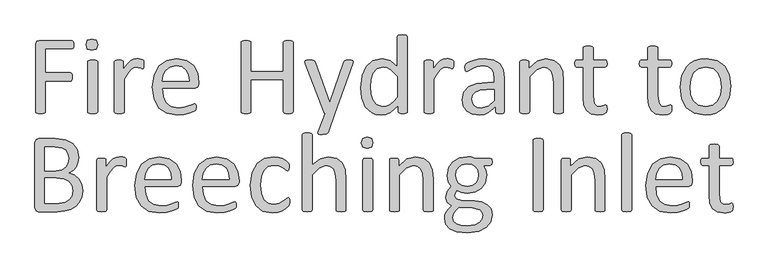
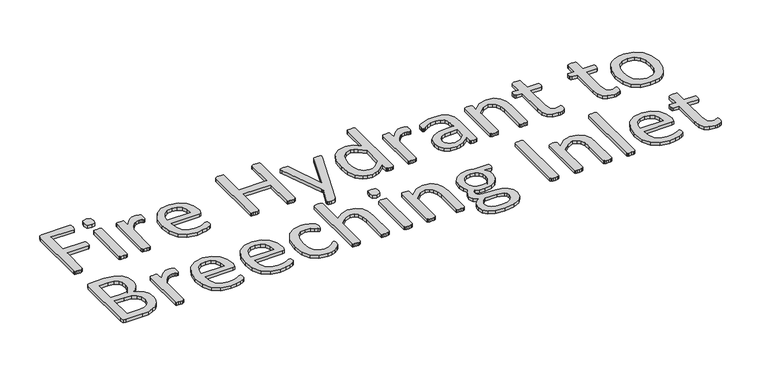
"""IFC4 building model written with IfcOpenShell, lengths in millimetres: proxy geometry, Marker-Fire Hydrant to Breeching Inlet : Fire Hydrant to Breeching Inlet."""

import ifcopenshell
import ifcopenshell.guid

model = None  # the IFC model being written
_history = None  # IfcOwnerHistory: only IFC2X3 demands one
_inside = {}  # id of a spatial element -> (the spatial element, [elements in it])
_under = {}  # id of a project, library or spatial element -> (it, [spatial elements below it])
_declared = {}  # id of a project -> (the project, [libraries it declares])
_typed = {}  # id of a type object -> (the type object, [elements of that type])
_made_of = {}  # id of a material, layer set ... -> (it, [elements and type objects made of it])


def new_model(schema):
    """Start an empty IFC model of exactly this schema.

    Asked for "IFC4X3", IfcOpenShell would pick the latest addendum, in which some entities
    have other attributes; the version numbers below select the first issue.
    IFC2X3 requires an IfcOwnerHistory on every rooted entity: one is made here for all.
    """
    global model, _history
    if schema == "IFC4X3":
        model = ifcopenshell.file(schema_version=(4, 3, 0, 0))
    else:
        model = ifcopenshell.file(schema=schema)
    _inside.clear()
    _under.clear()
    _declared.clear()
    _typed.clear()
    _made_of.clear()
    _history = None
    if model.schema == "IFC2X3":
        org = make("IfcOrganization", Name="unknown")
        user = make(
            "IfcPersonAndOrganization",
            ThePerson=make("IfcPerson", FamilyName="unknown"),
            TheOrganization=org,
        )
        app = make(
            "IfcApplication",
            ApplicationDeveloper=org,
            Version="unknown",
            ApplicationFullName="unknown",
            ApplicationIdentifier="unknown",
        )
        _history = make(
            "IfcOwnerHistory",
            OwningUser=user,
            OwningApplication=app,
            ChangeAction="ADDED",
            CreationDate=0,
        )
    return model


def make(cls, **values):
    """One entity of the class cls with the attributes given. An attribute that is None is left unset."""
    return model.create_entity(
        cls, **{name: value for name, value in values.items() if value is not None}
    )


def rooted(cls, **values):
    """An entity with a GlobalId (a new one), such as an element, a storey or a relation."""
    return make(cls, GlobalId=ifcopenshell.guid.new(), OwnerHistory=_history, **values)


def si_unit(unit_type, name, prefix=None):
    """IfcSIUnit, for example si_unit("LENGTHUNIT", "METRE", prefix="MILLI")."""
    return make("IfcSIUnit", UnitType=unit_type, Prefix=prefix, Name=name)


def assignment(units):
    """IfcUnitAssignment: the units of a project."""
    return None if units is None else make("IfcUnitAssignment", Units=units)


def point(xyz):
    """IfcCartesianPoint."""
    return None if xyz is None else make("IfcCartesianPoint", Coordinates=xyz)


def direction(xyz):
    """IfcDirection."""
    return None if xyz is None else make("IfcDirection", DirectionRatios=xyz)


def frame(location, z_axis=None, x_axis=None):
    """IfcAxis2Placement3D, a coordinate frame: its origin and axes. An axis left out is left unset."""
    return make(
        "IfcAxis2Placement3D",
        Location=point(location),
        Axis=direction(z_axis),
        RefDirection=direction(x_axis),
    )


def origin():
    """The frame at (0, 0, 0) with its axes left unset."""
    return frame((0.0, 0.0, 0.0))


def origin_with_axes():
    """The frame at (0, 0, 0) with the z axis (0, 0, 1) and the x axis (1, 0, 0) written out."""
    return frame((0.0, 0.0, 0.0), z_axis=(0.0, 0.0, 1.0), x_axis=(1.0, 0.0, 0.0))


def place(relative_to, where):
    """IfcLocalPlacement: puts the frame where relative to a parent placement (None: the world)."""
    return make(
        "IfcLocalPlacement", PlacementRelTo=relative_to, RelativePlacement=where
    )


def context(
    kind, dimensions, precision=None, world=None, true_north=None, identifier=None
):
    """IfcGeometricRepresentationContext, for example the 3D "Model" context."""
    return make(
        "IfcGeometricRepresentationContext",
        ContextIdentifier=identifier,
        ContextType=kind,
        CoordinateSpaceDimension=dimensions,
        Precision=precision,
        WorldCoordinateSystem=world,
        TrueNorth=true_north,
    )


def project(units=None, contexts=None):
    """IfcProject with its units and contexts."""
    return rooted(
        "IfcProject",
        Name="project",
        RepresentationContexts=contexts,
        UnitsInContext=assignment(units),
    )


def spatial(cls, under=None, at=None, **own):
    """A site, building, storey or space (cls), placed at a placement, below another one or the project."""
    s = rooted(cls, ObjectPlacement=at, **own)
    if under is not None:
        _under.setdefault(under.id(), (under, []))[1].append(s)
    return s


def polyline(points):
    """IfcPolyline through the points."""
    return make("IfcPolyline", Points=[point(p) for p in points])


def outline(outer, holes=None, kind="AREA"):
    """IfcArbitraryClosedProfileDef: a profile drawn as a closed curve; with holes, ...WithVoids."""
    if holes is None:
        return make("IfcArbitraryClosedProfileDef", ProfileType=kind, OuterCurve=outer)
    return make(
        "IfcArbitraryProfileDefWithVoids",
        ProfileType=kind,
        OuterCurve=outer,
        InnerCurves=holes,
    )


def extrude(swept, where, along, depth):
    """IfcExtrudedAreaSolid: the profile swept, set in the frame where, extruded along a direction by depth."""
    return make(
        "IfcExtrudedAreaSolid",
        SweptArea=swept,
        Position=where,
        ExtrudedDirection=direction(along),
        Depth=depth,
    )


def shape(context_of_items, identifier, shape_type, items):
    """IfcShapeRepresentation: the items that make up one representation, for example the "Body"."""
    return make(
        "IfcShapeRepresentation",
        ContextOfItems=context_of_items,
        RepresentationIdentifier=identifier,
        RepresentationType=shape_type,
        Items=items,
    )


def source(mapping_origin, context_of_items, identifier, shape_type, items):
    """IfcRepresentationMap: a shape defined once, which mapped items show again and again."""
    return make(
        "IfcRepresentationMap",
        MappingOrigin=mapping_origin,
        MappedRepresentation=shape(context_of_items, identifier, shape_type, items),
    )


def transform(
    local_origin,
    x_axis=None,
    y_axis=None,
    z_axis=None,
    scale=None,
    scale2=None,
    scale3=None,
    uniform=True,
):
    """IfcCartesianTransformationOperator3D, or its non-uniform kind. x_axis, y_axis, z_axis: its Axis1, 2, 3."""
    if uniform:
        return make(
            "IfcCartesianTransformationOperator3D",
            Axis1=direction(x_axis),
            Axis2=direction(y_axis),
            LocalOrigin=point(local_origin),
            Scale=scale,
            Axis3=direction(z_axis),
        )
    return make(
        "IfcCartesianTransformationOperator3DnonUniform",
        Axis1=direction(x_axis),
        Axis2=direction(y_axis),
        LocalOrigin=point(local_origin),
        Scale=scale,
        Axis3=direction(z_axis),
        Scale2=scale2,
        Scale3=scale3,
    )


def mapped(mapping_source, mapping_target):
    """IfcMappedItem: shows the shape of a source again, moved by a transform."""
    return make(
        "IfcMappedItem", MappingSource=mapping_source, MappingTarget=mapping_target
    )


def made_of(thing, what):
    """Note that an element or type object is made of a material, layer set ...; save() writes the relation."""
    if what is not None:
        _made_of.setdefault(what.id(), (what, []))[1].append(thing)
    return thing


def element(
    cls,
    number,
    at=None,
    inside=None,
    cuts=None,
    type_object=None,
    material=None,
    context=None,
    identifier="Body",
    shape_type=None,
    held_by="IfcProductDefinitionShape",
    body=None,
    shapes=None,
    **own,
):
    """One element of the class cls, such as IfcWall. Its Tag is "e" and its number.

    at: its placement. inside: the storey or other place that contains it. cuts: it is an
    opening in that element (IfcRelVoidsElement). A single representation is given by context,
    identifier, shape_type and body (its items); several are given by shapes. held_by: the class
    of the entity that holds the representations. save() writes the other relations.
    """
    e = rooted(cls, Tag="e%d" % number, ObjectPlacement=at, **own)
    if body is not None:
        shapes = [shape(context, identifier, shape_type, body)]
    if shapes is not None:
        e.Representation = make(held_by, Representations=shapes)
    if inside is not None:
        _inside.setdefault(inside.id(), (inside, []))[1].append(e)
    if cuts is not None:
        rooted(
            "IfcRelVoidsElement", RelatingBuildingElement=cuts, RelatedOpeningElement=e
        )
    if type_object is not None:
        _typed.setdefault(type_object.id(), (type_object, []))[1].append(e)
    return made_of(e, material)


def aggregate(whole, parts):
    """IfcRelAggregates: a whole, such as a stair, and the parts it consists of."""
    return rooted("IfcRelAggregates", RelatingObject=whole, RelatedObjects=parts)


def save(model, path):
    """Write the relations noted so far, then the file.

    IfcRelAggregates (storeys below a building ...), IfcRelContainedInSpatialStructure (elements
    in a storey), IfcRelDefinesByType, IfcRelAssociatesMaterial and IfcRelDeclares: one each for
    every whole, place, type object, material and project.
    """
    for whole, parts in _under.values():
        aggregate(whole, parts)
    for where, things in _inside.values():
        rooted(
            "IfcRelContainedInSpatialStructure",
            RelatedElements=things,
            RelatingStructure=where,
        )
    for kind, things in _typed.values():
        rooted("IfcRelDefinesByType", RelatedObjects=things, RelatingType=kind)
    for what, things in _made_of.values():
        rooted("IfcRelAssociatesMaterial", RelatedObjects=things, RelatingMaterial=what)
    for by, libraries in _declared.values():
        rooted("IfcRelDeclares", RelatingContext=by, RelatedDefinitions=libraries)
    model.write(path)


def generic_models_4d7ac0fc(model_context):
    return source(origin(), model_context, "Body", "SweptSolid", [
        extrude(outline(polyline([(3558.4853889, 223.7082635), (3558.183814, 218.4910177), (3557.1283018, 214.9324338), (3555.3791674, 212.9420395), (3553.2983005, 212.3087322), (3481.2822135, 212.3087322), (3481.2822135, 146.6860331), (3549.3175118, 146.6860331), (3551.3983786, 146.1130408), (3553.1475131, 144.2432764), (3554.2030252, 140.775165), (3554.5046001, 135.1658718), (3554.2030252, 129.9184685), (3553.1475131, 126.3598846), (3551.3983786, 124.2488603), (3549.3175118, 123.5250805), (3481.2822135, 123.5250805), (3481.2822135, 39.6872573), (3480.6489062, 37.6063905), (3478.4474094, 36.0683585), (3474.3761482, 35.1334763), (3467.7716578, 34.7414289), (3461.3179549, 35.1334763), (3457.0959063, 36.0683585), (3454.8944095, 37.6063905), (3454.2611022, 39.6872573), (3454.2611022, 224.6733032), (3457.3974812, 233.087243), (3464.092444, 235.4696848), (3553.2983005, 235.4696848), (3555.3188524, 234.8363775), (3557.0981443, 232.7856681), (3558.183814, 229.0461393), (3558.4853889, 223.7082635)])), origin_with_axes(), (0.0, 0.0, 1.0), 10.0),
        extrude(outline(polyline([(3624.1080879, 224.0701534), (3620.790764, 211.7357399), (3608.4865079, 208.4485734), (3596.4838267, 211.6452674), (3593.2268178, 223.7082635), (3596.5441417, 236.0426771), (3608.8483978, 239.3298435), (3620.8510789, 236.1331496), (3624.1080879, 224.0701534)])), origin_with_axes(), (0.0, 0.0, 1.0), 10.0),
        extrude(outline(polyline([(3624.1080879, 39.4459974), (3623.4446231, 37.3952881), (3621.3034413, 35.9477285), (3617.2321801, 35.0430038), (3610.5372172, 34.7414289), (3603.9628843, 35.0430038), (3599.8011507, 35.9477285), (3597.6599688, 37.3952881), (3597.0869765, 39.4459974), (3597.0869765, 176.7228935), (3597.6599688, 178.6831304), (3599.8011507, 180.2211624), (3603.9628843, 181.1258871), (3610.5372172, 181.427462), (3617.2321801, 181.1258871), (3621.3034413, 180.2211624), (3623.4446231, 178.6831304), (3624.1080879, 176.7228935), (3624.1080879, 39.4459974)])), origin_with_axes(), (0.0, 0.0, 1.0), 10.0),
        extrude(outline(polyline([(3751.4933272, 169.8469857), (3751.3425397, 164.3583225), (3750.7393899, 160.7997386), (3749.6235628, 158.7791868), (3747.7537984, 158.0855645), (3744.8285218, 158.7791868), (3740.9382056, 160.1664313), (3736.0828496, 161.4933609), (3730.262454, 162.1266682), (3722.9040263, 160.4680062), (3715.3344963, 155.039658), (3707.0411864, 145.0273712), (3697.4511045, 129.7375235), (3697.4511045, 39.4459974), (3696.7876397, 37.3952881), (3694.6464579, 35.9477285), (3690.5751967, 35.0430038), (3683.8802338, 34.7414289), (3677.3059009, 35.0430038), (3673.1441672, 35.9477285), (3671.0029854, 37.3952881), (3670.4299931, 39.4459974), (3670.4299931, 176.7228935), (3670.9125129, 178.7736029), (3672.8727498, 180.2814774), (3676.6424361, 181.1862021), (3682.7342492, 181.427462), (3688.7054323, 181.1862021), (3692.3846461, 180.2814774), (3694.284568, 178.7736029), (3694.8575603, 176.7228935), (3694.8575603, 156.6983199), (3705.292052, 170.9929704), (3714.5504015, 179.7084851), (3723.1754437, 184.0813212), (3731.8306435, 185.2876208), (3736.2336371, 185.0765184), (3741.4207254, 184.2622661), (3746.3062389, 182.9051791), (3749.3823029, 181.427462), (3750.5886025, 180.0402175), (3751.1314373, 178.3212405), (3751.4330122, 175.275334), (3751.4933272, 169.8469857)])), origin_with_axes(), (0.0, 0.0, 1.0), 10.0),
        extrude(outline(polyline([(3902.0395191, 115.2619282), (3899.0539276, 106.7575159), (3892.2081772, 104.2242867), (3801.6753912, 104.2242867), (3803.9372029, 81.9077438), (3811.446418, 64.8989193), (3825.1379187, 53.9819078), (3845.7656421, 50.182064), (3862.8950966, 51.9613559), (3875.9231324, 55.9723021), (3884.9402221, 59.9832483), (3890.2780979, 61.7625403), (3892.1478623, 61.2498629), (3893.4446343, 59.7419884), (3894.1080991, 56.9373418), (3894.3192016, 52.5343482), (3894.1684141, 49.3074967), (3893.7763667, 46.86474), (3893.0224295, 44.9045032), (3891.6653424, 43.2458412), (3886.7496715, 40.3205646), (3876.1643924, 36.1588309), (3861.0856472, 32.5097746), (3842.810208, 30.8812701), (3813.3463399, 35.7064686), (3792.0853092, 50.061434), (3779.0572734, 73.9763239), (3774.6542798, 107.3606657), (3779.2683758, 139.9307553), (3792.5678291, 164.4186375), (3813.5574424, 179.88943), (3841.1213886, 185.2876208), (3868.8662797, 180.070375), (3887.7147112, 166.0169845), (3898.5714077, 145.2987886), (3902.0395191, 119.9061817), (3902.0395191, 115.2619282)]), holes=[polyline([(3875.0184077, 123.5250805), (3873.0657102, 141.2350668), (3866.363208, 154.6777681), (3855.0767672, 163.1595622), (3839.3722541, 165.986827), (3823.2983118, 162.4885581), (3811.7479929, 153.1698936), (3804.5403527, 139.6291804), (3801.6753912, 123.5250805), (3875.0184077, 123.5250805)])]), origin_with_axes(), (0.0, 0.0, 1.0), 10.0),
        extrude(outline(polyline([(4160.6701565, 39.6872573), (4160.0368492, 37.515918), (4157.8353524, 36.0683585), (4153.6434612, 35.1334763), (4147.2199158, 34.7414289), (4140.5852679, 35.1334763), (4136.4838492, 36.038201), (4134.2823524, 37.4857605), (4133.6490451, 39.6269423), (4133.6490451, 127.3852393), (4044.8653935, 127.3852393), (4044.8653935, 39.6269423), (4044.2320862, 37.4857605), (4042.0305894, 36.038201), (4037.8688557, 35.1334763), (4031.3548378, 34.7414289), (4024.9011348, 35.1334763), (4020.6790862, 36.0683585), (4018.4775894, 37.515918), (4017.8442821, 39.6872573), (4017.8442821, 230.5238563), (4018.4775894, 232.6951957), (4020.6790862, 234.1427552), (4024.9011348, 235.0776374), (4031.3548378, 235.4696848), (4037.8688557, 235.0776374), (4042.0305894, 234.1427552), (4044.2320862, 232.6951957), (4044.8653935, 230.5238563), (4044.8653935, 150.5461919), (4133.6490451, 150.5461919), (4133.6490451, 230.5238563), (4134.2823524, 232.6951957), (4136.4838492, 234.1427552), (4140.5852679, 235.0776374), (4147.2199158, 235.4696848), (4153.6434612, 235.0776374), (4157.8353524, 234.1427552), (4160.0368492, 232.6951957), (4160.6701565, 230.5238563), (4160.6701565, 39.6872573)])), origin_with_axes(), (0.0, 0.0, 1.0), 10.0),
        extrude(outline(polyline([(4274.725785, 34.7414289), (4256.148771, -17.9135493), (4251.4442025, -21.8038655), (4239.9240411, -23.1609526), (4233.4703382, -22.7689052), (4229.6704944, -21.4118182), (4228.1927774, -18.8484315), (4228.9467147, -15.0184302), (4248.1268785, 34.7414289), (4245.5031769, 36.7318233), (4243.7841999, 39.6269423), (4194.2052858, 171.5961202), (4192.9386712, 176.692736), (4194.1751283, 179.5878551), (4198.1860745, 181.0354147), (4205.6048171, 181.427462), (4212.8727723, 181.1862021), (4217.0646634, 180.3417924), (4219.3264752, 178.5926579), (4220.7438773, 175.4562789), (4260.4914496, 64.6576593), (4299.2739822, 176.0594287), (4301.535794, 179.7989576), (4305.4562677, 181.0354147), (4313.0257978, 181.427462), (4320.1429655, 181.0354147), (4324.2443842, 179.5878551), (4325.5713138, 176.692736), (4324.6062741, 172.07864), (4274.725785, 34.7414289)])), origin_with_axes(), (0.0, 0.0, 1.0), 10.0),
        extrude(outline(polyline([(4473.3430166, 39.5666274), (4472.7700243, 37.3651306), (4470.8097874, 35.8874135), (4467.160731, 35.0430038), (4461.6419103, 34.7414289), (4455.9119871, 35.0430038), (4452.1724583, 35.8270986), (4450.061434, 37.1841856), (4449.3979692, 39.2047375), (4449.3979692, 56.334192), (4426.9909539, 37.6063905), (4414.8299459, 32.5625502), (4401.5681895, 30.8812701), (4387.6052715, 32.3816053), (4375.8740077, 36.8826107), (4358.6540807, 53.1073405), (4349.0036838, 77.1730178), (4345.9577773, 106.274996), (4349.7576211, 138.9958731), (4360.9762075, 163.9059601), (4379.3722766, 179.7386426), (4404.7648835, 185.2876208), (4426.689379, 179.88943), (4446.3219052, 164.0567476), (4446.3219052, 245.9041764), (4446.8948975, 248.0152008), (4449.0963943, 249.5833903), (4453.258128, 250.5182725), (4459.6515159, 250.9103198), (4466.3464788, 250.5182725), (4470.41774, 249.5833903), (4472.6192368, 248.0453582), (4473.3430166, 245.9644914), (4473.3430166, 39.5666274)]), holes=[polyline([(4446.3219052, 136.5531164), (4426.9607964, 155.5824928), (4417.4159507, 160.4906243), (4407.4790576, 162.1266682), (4391.4955877, 157.5427297), (4380.8198361, 145.449576), (4374.848653, 128.4407515), (4372.9788886, 109.1701151), (4374.5470781, 88.7836516), (4380.0055839, 71.1113623), (4390.3194456, 58.7166337), (4406.4537029, 54.0422227), (4415.9231549, 55.3993098), (4425.2719769, 59.8927759), (4435.2541062, 68.0352983), (4446.3219052, 80.3998693), (4446.3219052, 136.5531164)])]), origin_with_axes(), (0.0, 0.0, 1.0), 10.0),
        extrude(outline(polyline([(4600.7282559, 169.8469857), (4600.5774684, 164.3583225), (4599.9743186, 160.7997386), (4598.8584915, 158.7791868), (4596.9887271, 158.0855645), (4594.0634505, 158.7791868), (4590.1731342, 160.1664313), (4585.3177783, 161.4933609), (4579.4973827, 162.1266682), (4572.138955, 160.4680062), (4564.5694249, 155.039658), (4556.2761151, 145.0273712), (4546.6860331, 129.7375235), (4546.6860331, 39.4459974), (4546.0225683, 37.3952881), (4543.8813865, 35.9477285), (4539.8101253, 35.0430038), (4533.1151625, 34.7414289), (4526.5408296, 35.0430038), (4522.3790959, 35.9477285), (4520.2379141, 37.3952881), (4519.6649218, 39.4459974), (4519.6649218, 176.7228935), (4520.1474416, 178.7736029), (4522.1076785, 180.2814774), (4525.8773648, 181.1862021), (4531.9691778, 181.427462), (4537.9403609, 181.1862021), (4541.6195748, 180.2814774), (4543.5194966, 178.7736029), (4544.092489, 176.7228935), (4544.092489, 156.6983199), (4554.5269806, 170.9929704), (4563.7853302, 179.7084851), (4572.4103724, 184.0813212), (4581.0655721, 185.2876208), (4585.4685657, 185.0765184), (4590.6556541, 184.2622661), (4595.5411675, 182.9051791), (4598.6172315, 181.427462), (4599.8235312, 180.0402175), (4600.366366, 178.3212405), (4600.6679409, 175.275334), (4600.7282559, 169.8469857)])), origin_with_axes(), (0.0, 0.0, 1.0), 10.0),
        extrude(outline(polyline([(4739.6939715, 39.3856824), (4738.3670419, 36.5810358), (4734.748143, 35.1937913), (4727.9928652, 34.7414289), (4721.1471149, 35.1937913), (4717.4377436, 36.5810358), (4716.2917589, 39.3856824), (4716.2917589, 53.258128), (4695.9656104, 37.2143431), (4684.4152916, 32.4645384), (4672.201508, 30.8812701), (4652.2674069, 33.7462317), (4637.0981892, 42.0395416), (4627.3573199, 55.3691523), (4623.8892085, 73.3430166), (4628.6842494, 93.789795), (4642.436065, 108.2050754), (4664.3605605, 116.7999602), (4693.5530112, 119.6649218), (4712.6728601, 119.6649218), (4712.6728601, 131.1850831), (4710.9840406, 146.2638283), (4705.5556924, 157.1808398), (4695.875138, 163.7551727), (4681.2487551, 165.986827), (4664.511348, 163.5742277), (4651.5436271, 158.2665094), (4642.2249626, 152.9587911), (4636.6759844, 150.5461919), (4634.5046451, 151.1794992), (4632.9062981, 153.1095786), (4631.9111009, 156.4269025), (4631.609526, 160.8600536), (4632.1523608, 167.1931266), (4634.80622, 171.6262777), (4642.0440177, 176.1499012), (4653.8657539, 180.6132098), (4668.4921367, 183.9606912), (4684.5057641, 185.2876208), (4710.1396309, 181.8798244), (4727.2389279, 171.9278526), (4736.7385374, 155.6729653), (4739.6939715, 132.9945325), (4739.6939715, 39.3856824)]), holes=[polyline([(4712.6728601, 100.3641279), (4691.200727, 100.3641279), (4673.2871777, 98.584836), (4660.6511892, 93.3374327), (4653.2626041, 85.0139653), (4650.9103198, 73.8255364), (4652.5991393, 64.084667), (4657.6655977, 56.5754519), (4665.7779626, 51.780411), (4676.6045016, 50.182064), (4694.9402558, 55.2786798), (4712.6728601, 70.8701024), (4712.6728601, 100.3641279)])]), origin_with_axes(), (0.0, 0.0, 1.0), 10.0),
        extrude(outline(polyline([(4901.8206397, 39.5063124), (4901.1571749, 37.455603), (4899.0159931, 35.977886), (4894.9447319, 35.0430038), (4888.370399, 34.7414289), (4881.6754361, 35.0430038), (4877.6041749, 35.9477285), (4875.4629931, 37.3952881), (4874.7995283, 39.5063124), (4874.7995283, 120.0871266), (4873.0202364, 139.0260306), (4867.8633055, 151.4207591), (4859.0874758, 159.3823366), (4846.6324323, 162.1266682), (4828.3268356, 155.4015478), (4809.1768293, 135.6483917), (4809.1768293, 39.5063124), (4808.5133645, 37.3952881), (4806.3721827, 35.9477285), (4802.3009215, 35.0430038), (4795.6059586, 34.7414289), (4789.0316257, 35.0430038), (4784.869892, 35.9477285), (4782.7287102, 37.3952881), (4782.1557179, 39.4459974), (4782.1557179, 176.7228935), (4782.6382377, 178.7736029), (4784.5984746, 180.2814774), (4788.3681609, 181.1862021), (4794.459974, 181.427462), (4800.4311571, 181.1862021), (4804.1103709, 180.2814774), (4806.0102928, 178.7736029), (4806.5832851, 176.7228935), (4806.5832851, 158.5680843), (4829.6537652, 178.8640754), (4852.8448753, 185.2876208), (4875.885198, 180.5830523), (4891.0242581, 168.0073788), (4899.317568, 149.5811522), (4901.8206397, 124.1885453), (4901.8206397, 39.5063124)])), origin_with_axes(), (0.0, 0.0, 1.0), 10.0),
        extrude(outline(polyline([(5021.4855614, 48.6138745), (5020.8824116, 41.0745019), (5019.0428047, 36.9730832), (5015.3635909, 34.500169), (5009.7844552, 32.6002471), (5003.1196498, 31.36379), (4996.0929545, 30.8812701), (4977.7270429, 33.8065467), (4965.2116844, 42.6426914), (4958.0945167, 57.6309641), (4955.8628624, 79.0729397), (4955.8628624, 162.1266682), (4937.5271083, 162.1266682), (4933.9986819, 164.38848), (4932.7019098, 171.7167501), (4933.0637997, 176.2102162), (4933.9986819, 179.2561227), (4935.5367139, 180.9449422), (4937.6477382, 181.427462), (4955.8628624, 181.427462), (4955.8628624, 215.0229063), (4956.4358547, 217.0434582), (4958.5770365, 218.7021201), (4962.7387702, 219.7274748), (4969.3131031, 220.0290497), (4976.008066, 219.7274748), (4980.0793272, 218.7021201), (4982.220509, 217.0434582), (4982.8839738, 215.0229063), (4982.8839738, 181.427462), (5016.660363, 181.427462), (5018.6809148, 180.9449422), (5020.2189468, 179.2561227), (5021.1839865, 176.2102162), (5021.4855614, 171.7167501), (5020.1586319, 164.38848), (5016.660363, 162.1266682), (4982.8839738, 162.1266682), (4982.8839738, 83.4759333), (4986.89492, 61.4911229), (4992.4966738, 55.9044478), (5001.2800429, 54.0422227), (5007.2813835, 54.735845), (5011.9557945, 56.1834045), (5015.4842209, 57.6611216), (5018.1079225, 58.3849013), (5020.5205217, 56.5151369), (5021.1839865, 53.4993879), (5021.4855614, 48.6138745)])), origin_with_axes(), (0.0, 0.0, 1.0), 10.0),
        extrude(outline(polyline([(5199.0528647, 48.6138745), (5198.4497149, 41.0745019), (5196.610108, 36.9730832), (5192.9308942, 34.500169), (5187.3517584, 32.6002471), (5180.6869531, 31.36379), (5173.6602578, 30.8812701), (5155.2943462, 33.8065467), (5142.7789877, 42.6426914), (5135.66182, 57.6309641), (5133.4301657, 79.0729397), (5133.4301657, 162.1266682), (5115.0944115, 162.1266682), (5111.5659852, 164.38848), (5110.2692131, 171.7167501), (5110.631103, 176.2102162), (5111.5659852, 179.2561227), (5113.1040172, 180.9449422), (5115.2150415, 181.427462), (5133.4301657, 181.427462), (5133.4301657, 215.0229063), (5134.003158, 217.0434582), (5136.1443398, 218.7021201), (5140.3060735, 219.7274748), (5146.8804064, 220.0290497), (5153.5753692, 219.7274748), (5157.6466304, 218.7021201), (5159.7878122, 217.0434582), (5160.451277, 215.0229063), (5160.451277, 181.427462), (5194.2276662, 181.427462), (5196.2482181, 180.9449422), (5197.7862501, 179.2561227), (5198.7512898, 176.2102162), (5199.0528647, 171.7167501), (5197.7259351, 164.38848), (5194.2276662, 162.1266682), (5160.451277, 162.1266682), (5160.451277, 83.4759333), (5164.4622233, 61.4911229), (5170.0639771, 55.9044478), (5178.8473462, 54.0422227), (5184.8486867, 54.735845), (5189.5230977, 56.1834045), (5193.0515241, 57.6611216), (5195.6752258, 58.3849013), (5198.087825, 56.5151369), (5198.7512898, 53.4993879), (5199.0528647, 48.6138745)])), origin_with_axes(), (0.0, 0.0, 1.0), 10.0),
        extrude(outline(polyline([(5361.1795329, 109.59232), (5356.7162243, 77.9571126), (5343.3564561, 53.0470256), (5333.3441693, 43.7359004), (5321.1002282, 36.7318233), (5306.6774084, 32.3439084), (5290.1284856, 30.8812701), (5260.2725701, 36.038201), (5239.0416969, 51.0264737), (5226.375551, 74.9112061), (5222.2138173, 106.7575159), (5226.6168109, 138.3927233), (5239.8861067, 163.2726528), (5249.8606966, 172.5460811), (5262.0518621, 179.4973827), (5276.4596031, 183.8400613), (5293.0839197, 185.2876208), (5322.9699926, 180.1306899), (5344.2008658, 165.1424172), (5356.9273268, 141.2576849), (5361.1795329, 109.59232)]), holes=[polyline([(5334.1584215, 107.7828706), (5332.0775547, 128.7423264), (5325.2318044, 146.0527258), (5312.354556, 157.8141471), (5292.058565, 162.1266682), (5272.7879286, 158.176037), (5259.5186329, 147.0177655), (5251.7681579, 129.948626), (5249.2349287, 108.3860204), (5251.3157955, 87.3059346), (5258.2218608, 70.0558501), (5271.1895817, 58.3547439), (5291.4554152, 54.0422227), (5310.6657365, 57.992854), (5324.0255048, 69.0606529), (5331.7156648, 86.0694775), (5334.1584215, 107.7828706)])]), origin_with_axes(), (0.0, 0.0, 1.0), 10.0),
        extrude(outline(polyline([(3583.5764208, -177.985032), (3581.1939791, -195.1748015), (3574.4990162, -209.348822), (3564.1248396, -220.356306), (3550.4333389, -228.3178835), (3534.1181366, -233.1430819), (3514.214193, -234.7414289), (3462.1623646, -234.7414289), (3455.4975593, -232.3288297), (3452.3310228, -223.8847324), (3452.3310228, -44.8698696), (3455.5277168, -36.4257723), (3462.2829946, -34.013173), (3507.88112, -34.013173), (3537.4053031, -37.4812844), (3556.5553095, -47.5538862), (3568.1056283, -63.778616), (3571.9959445, -85.5221666), (3570.2769676, -99.3644547), (3565.2406667, -111.5782383), (3556.8568844, -121.5905251), (3545.2764081, -128.8283227), (3560.2345233, -134.4074585), (3572.3578344, -144.7514777), (3580.5606718, -159.4381755), (3583.5764208, -177.985032)]), holes=[polyline([(3544.9748332, -89.1410654), (3542.9542813, -75.8114547), (3536.6212083, -65.7086954), (3525.342307, -59.3756224), (3506.9160803, -57.1741256), (3479.3521341, -57.1741256), (3479.3521341, -122.7968247), (3509.6905695, -122.7968247), (3526.3978191, -120.052493), (3536.9227833, -112.6940654), (3543.0447538, -101.8976838), (3544.9748332, -89.1410654)]), polyline([(3556.5553095, -178.226292), (3553.7205054, -162.6650269), (3545.4271955, -151.3861255), (3531.7356949, -144.4499027), (3511.017499, -142.0976185), (3479.3521341, -142.0976185), (3479.3521341, -211.5804763), (3517.7727769, -211.5804763), (3533.6356168, -209.4392945), (3545.5478255, -203.1062215), (3553.6300329, -192.6717298), (3556.5553095, -178.226292)])]), origin_with_axes(), (0.0, 0.0, 1.0), 10.0),
        extrude(outline(polyline([(3703.2413426, -99.6358721), (3703.0905552, -105.1245353), (3702.4874054, -108.6831192), (3701.3715782, -110.703671), (3699.5018138, -111.3972933), (3696.5765372, -110.703671), (3692.686221, -109.3164265), (3687.830865, -107.9894969), (3682.0104694, -107.3561896), (3674.6520417, -109.0148516), (3667.0825117, -114.4431998), (3658.7892018, -124.4554866), (3649.1991199, -139.7453343), (3649.1991199, -230.0368604), (3648.5356551, -232.0875697), (3646.3944733, -233.5351293), (3642.3232121, -234.439854), (3635.6282492, -234.7414289), (3629.0539163, -234.439854), (3624.8921826, -233.5351293), (3622.7510008, -232.0875697), (3622.1780085, -230.0368604), (3622.1780085, -92.7599643), (3622.6605284, -90.7092549), (3624.6207652, -89.2013804), (3628.3904515, -88.2966557), (3634.4822646, -88.0553958), (3640.4534477, -88.2966557), (3644.1326615, -89.2013804), (3646.0325834, -90.7092549), (3646.6055757, -92.7599643), (3646.6055757, -112.7845379), (3657.0400674, -98.4898874), (3666.2984169, -89.7743727), (3674.9234592, -85.4015366), (3683.5786589, -84.195237), (3687.9816525, -84.4063394), (3693.1687408, -85.2205917), (3698.0542543, -86.5776787), (3701.1303183, -88.0553958), (3702.3366179, -89.4426403), (3702.8794527, -91.1616173), (3703.1810276, -94.2075238), (3703.2413426, -99.6358721)])), origin_with_axes(), (0.0, 0.0, 1.0), 10.0),
        extrude(outline(polyline([(3853.7875345, -154.2209296), (3850.801943, -162.7253419), (3843.9561927, -165.2585711), (3753.4234066, -165.2585711), (3755.6852184, -187.575114), (3763.1944335, -204.5839385), (3776.8859341, -215.50095), (3797.5136575, -219.3007938), (3814.643112, -217.5215019), (3827.6711479, -213.5105557), (3836.6882375, -209.4996095), (3842.0261133, -207.7203175), (3843.8958777, -208.2329949), (3845.1926498, -209.7408694), (3845.8561145, -212.545516), (3846.067217, -216.9485096), (3845.9164295, -220.1753611), (3845.5243822, -222.6181178), (3844.7704449, -224.5783546), (3843.4133578, -226.2370166), (3838.4976869, -229.1622932), (3827.9124078, -233.3240269), (3812.8336626, -236.9730832), (3794.5582234, -238.6015877), (3765.0943554, -233.7763892), (3743.8333246, -219.4214238), (3730.8052888, -195.5065339), (3726.4022952, -162.1221921), (3731.0163912, -129.5521025), (3744.3158445, -105.0642203), (3765.3054578, -89.5934278), (3792.869404, -84.195237), (3820.6142951, -89.4124828), (3839.4627266, -103.4658733), (3850.3194231, -124.1840692), (3853.7875345, -149.5766761), (3853.7875345, -154.2209296)]), holes=[polyline([(3826.7664231, -145.9577773), (3824.8137256, -128.247791), (3818.1112234, -114.8050897), (3806.8247826, -106.3232956), (3791.1202695, -103.4960308), (3775.0463272, -106.9942997), (3763.4960084, -116.3129642), (3756.2883682, -129.8536774), (3753.4234066, -145.9577773), (3826.7664231, -145.9577773)])]), origin_with_axes(), (0.0, 0.0, 1.0), 10.0),
        extrude(outline(polyline([(4012.0540439, -154.2209296), (4009.0684524, -162.7253419), (4002.2227021, -165.2585711), (3911.689916, -165.2585711), (3913.9517278, -187.575114), (3921.4609429, -204.5839385), (3935.1524435, -215.50095), (3955.7801669, -219.3007938), (3972.9096215, -217.5215019), (3985.9376573, -213.5105557), (3994.9547469, -209.4996095), (4000.2926227, -207.7203175), (4002.1623871, -208.2329949), (4003.4591592, -209.7408694), (4004.122624, -212.545516), (4004.3337264, -216.9485096), (4004.182939, -220.1753611), (4003.7908916, -222.6181178), (4003.0369543, -224.5783546), (4001.6798673, -226.2370166), (3996.7641963, -229.1622932), (3986.1789172, -233.3240269), (3971.100172, -236.9730832), (3952.8247329, -238.6015877), (3923.3608648, -233.7763892), (3902.0998341, -219.4214238), (3889.0717982, -195.5065339), (3884.6688046, -162.1221921), (3889.2829007, -129.5521025), (3902.5823539, -105.0642203), (3923.5719672, -89.5934278), (3951.1359134, -84.195237), (3978.8808045, -89.4124828), (3997.729236, -103.4658733), (4008.5859326, -124.1840692), (4012.0540439, -149.5766761), (4012.0540439, -154.2209296)]), holes=[polyline([(3985.0329326, -145.9577773), (3983.0802351, -128.247791), (3976.3777328, -114.8050897), (3965.0912921, -106.3232956), (3949.386779, -103.4960308), (3933.3128366, -106.9942997), (3921.7625178, -116.3129642), (3914.5548776, -129.8536774), (3911.689916, -145.9577773), (3985.0329326, -145.9577773)])]), origin_with_axes(), (0.0, 0.0, 1.0), 10.0),
        extrude(outline(polyline([(4151.0197595, -206.9965378), (4150.8689721, -211.2185864), (4150.3261373, -214.2343355), (4149.4214126, -216.6770922), (4147.0088133, -220.295991), (4140.5249529, -226.1767016), (4130.2412487, -232.4193021), (4117.8465201, -236.8826107), (4103.9740746, -238.6015877), (4077.7973729, -233.5954443), (4058.7076815, -218.9690614), (4046.9764178, -195.385904), (4042.9353141, -163.1475468), (4047.8811425, -127.4109207), (4061.4218557, -102.953196), (4081.6575317, -88.809333), (4106.8691937, -84.195237), (4119.5956546, -85.5523241), (4130.934871, -89.1109079), (4140.163063, -94.1773663), (4146.0136161, -99.0930372), (4148.5166878, -102.3198887), (4149.6626725, -104.8832754), (4150.2658223, -108.0498119), (4150.4166097, -112.482963), (4149.0595227, -120.5048554), (4145.7723562, -122.7968247), (4140.5551104, -120.3842254), (4133.1062103, -115.0765071), (4122.1590413, -109.7687888), (4107.0501386, -107.3561896), (4091.1797593, -110.8544585), (4079.5163499, -121.3492651), (4072.3464066, -138.5088771), (4069.9564254, -162.0015621), (4072.4293397, -185.3434597), (4079.7274523, -202.1110243), (4091.579346, -212.1534686), (4107.6532884, -215.4406351), (4122.7018761, -212.3947285), (4133.9204625, -205.6997657), (4141.9121975, -199.0952753), (4146.9786558, -196.1398412), (4148.7579478, -196.7128336), (4150.0547199, -198.6429129), (4150.8086571, -202.0808668), (4151.0197595, -206.9965378)])), origin_with_axes(), (0.0, 0.0, 1.0), 10.0),
        extrude(outline(polyline([(4305.4261102, -229.9765454), (4304.7626454, -232.0272548), (4302.6214636, -233.5049718), (4298.5502024, -234.439854), (4291.9758695, -234.7414289), (4285.2809067, -234.439854), (4281.2096455, -233.5351293), (4279.0684636, -232.0875697), (4278.4049988, -229.9765454), (4278.4049988, -149.3957312), (4276.6257069, -130.4568272), (4271.4687761, -118.0620987), (4262.6929464, -110.1005212), (4250.2379028, -107.3561896), (4231.9323062, -114.08131), (4212.7822998, -133.8344661), (4212.7822998, -229.9765454), (4212.118835, -232.0875697), (4209.9776532, -233.5351293), (4205.906392, -234.439854), (4199.2114292, -234.7414289), (4192.6370963, -234.439854), (4188.4753626, -233.5049718), (4186.3341808, -232.0272548), (4185.7611884, -229.9765454), (4185.7611884, -23.5183664), (4186.3341808, -21.3470271), (4188.4753626, -19.8089951), (4192.6370963, -18.8741129), (4199.2114292, -18.572538), (4205.906392, -18.8741129), (4209.9776532, -19.8089951), (4212.118835, -21.3771846), (4212.7822998, -23.5183664), (4212.7822998, -106.9942997), (4234.4956929, -89.8045302), (4256.5106608, -84.195237), (4279.5509835, -88.8998055), (4294.6598862, -101.475479), (4302.9230385, -119.9017056), (4305.4261102, -145.4149424), (4305.4261102, -229.9765454)])), origin_with_axes(), (0.0, 0.0, 1.0), 10.0),
        extrude(outline(polyline([(4378.7691268, -45.4127044), (4375.4518028, -57.7471179), (4363.1475468, -61.0342844), (4351.1448656, -57.8375904), (4347.8878566, -45.7745943), (4351.2051806, -33.4401807), (4363.5094367, -30.1530143), (4375.5121178, -33.3497082), (4378.7691268, -45.4127044)])), origin_with_axes(), (0.0, 0.0, 1.0), 10.0),
        extrude(outline(polyline([(4378.7691268, -230.0368604), (4378.105662, -232.0875697), (4375.9644802, -233.5351293), (4371.893219, -234.439854), (4365.1982561, -234.7414289), (4358.6239232, -234.439854), (4354.4621895, -233.5351293), (4352.3210077, -232.0875697), (4351.7480154, -230.0368604), (4351.7480154, -92.7599643), (4352.3210077, -90.7997274), (4354.4621895, -89.2616954), (4358.6239232, -88.3569707), (4365.1982561, -88.0553958), (4371.893219, -88.3569707), (4375.9644802, -89.2616954), (4378.105662, -90.7997274), (4378.7691268, -92.7599643), (4378.7691268, -230.0368604)])), origin_with_axes(), (0.0, 0.0, 1.0), 10.0),
        extrude(outline(polyline([(4544.7559538, -229.9765454), (4544.092489, -232.0272548), (4541.9513071, -233.5049718), (4537.8800459, -234.439854), (4531.305713, -234.7414289), (4524.6107502, -234.439854), (4520.539489, -233.5351293), (4518.3983072, -232.0875697), (4517.7348424, -229.9765454), (4517.7348424, -149.3957312), (4515.9555505, -130.4568272), (4510.7986196, -118.0620987), (4502.0227899, -110.1005212), (4489.5677464, -107.3561896), (4471.2621497, -114.08131), (4452.1121434, -133.8344661), (4452.1121434, -229.9765454), (4451.4486786, -232.0875697), (4449.3074967, -233.5351293), (4445.2362355, -234.439854), (4438.5412727, -234.7414289), (4431.9669398, -234.439854), (4427.8052061, -233.5351293), (4425.6640243, -232.0875697), (4425.091032, -230.0368604), (4425.091032, -92.7599643), (4425.5735518, -90.7092549), (4427.5337887, -89.2013804), (4431.303475, -88.2966557), (4437.3952881, -88.0553958), (4443.3664711, -88.2966557), (4447.045685, -89.2013804), (4448.9456069, -90.7092549), (4449.5185992, -92.7599643), (4449.5185992, -110.9147735), (4472.5890793, -90.6187824), (4495.7801894, -84.195237), (4518.820512, -88.8998055), (4533.9595722, -101.475479), (4542.2528821, -119.9017056), (4544.7559538, -145.2943125), (4544.7559538, -229.9765454)])), origin_with_axes(), (0.0, 0.0, 1.0), 10.0),
        extrude(outline(polyline([(4706.882622, -97.7661077), (4705.4049049, -105.0943778), (4701.6352186, -107.3561896), (4681.67096, -107.3561896), (4689.2706476, -119.8413906), (4691.4419869, -134.0154111), (4687.5818281, -155.4875442), (4676.5140292, -171.2900692), (4659.3845746, -181.1515685), (4637.3997642, -184.5593649), (4621.2051918, -182.2975532), (4609.3532981, -176.5977875), (4604.5280997, -182.900703), (4602.6583353, -191.0733829), (4607.7851086, -200.0), (4621.4162943, -203.8601588), (4658.4496924, -205.4283483), (4677.8711162, -208.3536248), (4693.1609638, -215.802525), (4703.2637231, -227.6544187), (4706.882622, -243.969621), (4702.8415182, -262.6371075), (4690.4467897, -278.1983725), (4669.1556015, -288.7836516), (4638.6060638, -292.6438104), (4609.6850305, -289.7486913), (4590.1429767, -281.8474288), (4579.0751778, -269.8749052), (4575.6372239, -254.8263175), (4576.873681, -244.7838732), (4580.6735248, -235.5556811), (4587.0065978, -227.2020563), (4595.7221125, -219.3007938), (4583.4781714, -209.3789795), (4579.4973827, -196.4414161), (4583.5988013, -179.2818041), (4593.7317181, -165.7410909), (4586.1320305, -152.7733701), (4583.3575414, -135.2217107), (4587.3684876, -113.779735), (4598.5267591, -97.7359502), (4615.6562136, -87.6935059), (4637.3997642, -84.195237), (4649.2215004, -85.2205917), (4659.5353621, -88.0553958), (4701.6352186, -88.0553958), (4705.5556924, -90.4378375), (4706.882622, -97.7661077)]), holes=[polyline([(4679.8615106, -244.8140307), (4677.9917462, -236.3171578), (4672.382453, -230.0067029), (4652.1769344, -224.4878822), (4615.5054261, -223.1609526), (4607.2121163, -231.0019001), (4602.0853429, -238.1190678), (4599.4917988, -244.7838732), (4598.7981765, -251.5693085), (4601.3917207, -261.0010636), (4609.1723532, -267.8241958), (4621.5972392, -271.9633114), (4638.1235439, -273.3430166), (4657.9068576, -270.9605748), (4670.7539485, -264.5973444), (4677.7504863, -255.5199398), (4679.8615106, -244.8140307)]), polyline([(4668.2810343, -134.196356), (4666.2454037, -121.3115683), (4660.1385119, -111.6083957), (4650.2770125, -105.5241221), (4636.9775593, -103.4960308), (4623.5273186, -106.02926), (4613.9975516, -112.9654828), (4608.3581009, -123.1285571), (4606.518494, -135.1613957), (4608.5541246, -147.7069117), (4614.6610164, -157.2366787), (4624.4320433, -163.253098), (4637.4600791, -165.2585711), (4651.1817372, -162.8158144), (4660.8019767, -156.030379), (4666.4414274, -146.0180922), (4668.2810343, -134.196356)])]), origin_with_axes(), (0.0, 0.0, 1.0), 10.0),
        extrude(outline(polyline([(4845.8483376, -229.7956005), (4845.2150303, -231.9669398), (4843.0135335, -233.4144993), (4838.8517998, -234.3493815), (4832.3377819, -234.7414289), (4825.8840789, -234.3493815), (4821.6620303, -233.4144993), (4819.4605335, -231.9669398), (4818.8272262, -229.7956005), (4818.8272262, -38.9590015), (4819.5208485, -36.7876621), (4821.8731327, -35.3401026), (4826.1253389, -34.4052204), (4832.3377819, -34.013173), (4838.8517998, -34.4052204), (4843.0135335, -35.3401026), (4845.2150303, -36.7876621), (4845.8483376, -38.9590015), (4845.8483376, -229.7956005)])), origin_with_axes(), (0.0, 0.0, 1.0), 10.0),
        extrude(outline(polyline([(5015.6953233, -229.9765454), (5015.0318585, -232.0272548), (5012.8906767, -233.5049718), (5008.8194155, -234.439854), (5002.2450826, -234.7414289), (4995.5501197, -234.439854), (4991.4788585, -233.5351293), (4989.3376767, -232.0875697), (4988.6742119, -229.9765454), (4988.6742119, -149.3957312), (4986.89492, -130.4568272), (4981.7379891, -118.0620987), (4972.9621594, -110.1005212), (4960.5071159, -107.3561896), (4942.2015193, -114.08131), (4923.0515129, -133.8344661), (4923.0515129, -229.9765454), (4922.3880481, -232.0875697), (4920.2468663, -233.5351293), (4916.1756051, -234.439854), (4909.4806422, -234.7414289), (4902.9063093, -234.439854), (4898.7445757, -233.5351293), (4896.6033938, -232.0875697), (4896.0304015, -230.0368604), (4896.0304015, -92.7599643), (4896.5129214, -90.7092549), (4898.4731582, -89.2013804), (4902.2428445, -88.2966557), (4908.3346576, -88.0553958), (4914.3058407, -88.2966557), (4917.9850545, -89.2013804), (4919.8849764, -90.7092549), (4920.4579687, -92.7599643), (4920.4579687, -110.9147735), (4943.5284488, -90.6187824), (4966.7195589, -84.195237), (4989.7598816, -88.8998055), (5004.8989417, -101.475479), (5013.1922516, -119.9017056), (5015.6953233, -145.2943125), (5015.6953233, -229.9765454)])), origin_with_axes(), (0.0, 0.0, 1.0), 10.0),
        extrude(outline(polyline([(5089.0383399, -229.9765454), (5088.3748751, -232.0272548), (5086.2336932, -233.5049718), (5082.162432, -234.439854), (5075.4674692, -234.7414289), (5068.8931363, -234.439854), (5064.7314026, -233.5049718), (5062.5902208, -232.0272548), (5062.0172285, -229.9765454), (5062.0172285, -23.5183664), (5062.5902208, -21.3470271), (5064.7314026, -19.8089951), (5068.8931363, -18.8741129), (5075.4674692, -18.572538), (5082.162432, -18.8741129), (5086.2336932, -19.8089951), (5088.3748751, -21.3470271), (5089.0383399, -23.5183664), (5089.0383399, -229.9765454)])), origin_with_axes(), (0.0, 0.0, 1.0), 10.0),
        extrude(outline(polyline([(5255.0251668, -154.2209296), (5252.0395753, -162.7253419), (5245.193825, -165.2585711), (5154.6610389, -165.2585711), (5156.9228507, -187.575114), (5164.4320658, -204.5839385), (5178.1235664, -215.50095), (5198.7512898, -219.3007938), (5215.8807443, -217.5215019), (5228.9087802, -213.5105557), (5237.9258698, -209.4996095), (5243.2637456, -207.7203175), (5245.13351, -208.2329949), (5246.4302821, -209.7408694), (5247.0937469, -212.545516), (5247.3048493, -216.9485096), (5247.1540618, -220.1753611), (5246.7620145, -222.6181178), (5246.0080772, -224.5783546), (5244.6509901, -226.2370166), (5239.7353192, -229.1622932), (5229.1500401, -233.3240269), (5214.0712949, -236.9730832), (5195.7958557, -238.6015877), (5166.3319877, -233.7763892), (5145.070957, -219.4214238), (5132.0429211, -195.5065339), (5127.6399275, -162.1221921), (5132.2540235, -129.5521025), (5145.5534768, -105.0642203), (5166.5430901, -89.5934278), (5194.1070363, -84.195237), (5221.8519274, -89.4124828), (5240.7003589, -103.4658733), (5251.5570554, -124.1840692), (5255.0251668, -149.5766761), (5255.0251668, -154.2209296)]), holes=[polyline([(5228.0040555, -145.9577773), (5226.051358, -128.247791), (5219.3488557, -114.8050897), (5208.0624149, -106.3232956), (5192.3579018, -103.4960308), (5176.2839595, -106.9942997), (5164.7336407, -116.3129642), (5157.5260005, -129.8536774), (5154.6610389, -145.9577773), (5228.0040555, -145.9577773)])]), origin_with_axes(), (0.0, 0.0, 1.0), 10.0),
        extrude(outline(polyline([(5366.9697711, -220.8689833), (5366.3666212, -228.4083559), (5364.5270143, -232.5097746), (5360.8478005, -234.9826888), (5355.2686648, -236.8826107), (5348.6038594, -238.1190678), (5341.5771642, -238.6015877), (5323.2112525, -235.6763111), (5310.695894, -226.8401664), (5303.5787263, -211.8518937), (5301.347072, -190.4099181), (5301.347072, -107.3561896), (5283.0113179, -107.3561896), (5279.4828915, -105.0943778), (5278.1861194, -97.7661077), (5278.5480093, -93.2726416), (5279.4828915, -90.2267351), (5281.0209235, -88.5379156), (5283.1319478, -88.0553958), (5301.347072, -88.0553958), (5301.347072, -54.4599515), (5301.9200643, -52.4393996), (5304.0612462, -50.7807377), (5308.2229798, -49.755383), (5314.7973127, -49.4538081), (5321.4922756, -49.755383), (5325.5635368, -50.7807377), (5327.7047186, -52.4393996), (5328.3681834, -54.4599515), (5328.3681834, -88.0553958), (5362.1445726, -88.0553958), (5364.1651244, -88.5379156), (5365.7031565, -90.2267351), (5366.6681962, -93.2726416), (5366.9697711, -97.7661077), (5365.6428415, -105.0943778), (5362.1445726, -107.3561896), (5328.3681834, -107.3561896), (5328.3681834, -186.0069245), (5332.3791296, -207.9917349), (5337.9808834, -213.57841), (5346.7642525, -215.4406351), (5352.7655931, -214.7470128), (5357.4400041, -213.2994533), (5360.9684305, -211.8217362), (5363.5921321, -211.0979565), (5366.0047314, -212.9677209), (5366.6681962, -215.9834699), (5366.9697711, -220.8689833)])), origin_with_axes(), (0.0, 0.0, 1.0), 10.0),
    ])


if __name__ == "__main__":
    model = new_model("IFC4")
    model_context = context("Model", 3, world=origin())
    ifc_project = project(units=[si_unit("LENGTHUNIT", "METRE", prefix="MILLI")], contexts=[model_context])
    site = spatial("IfcSite", under=ifc_project)
    building = spatial("IfcBuilding", under=site)
    placement = place(None, origin())
    generic_models_shape = generic_models_4d7ac0fc(model_context)
    element("IfcBuildingElementProxy", 1, Name="Marker-Fire Hydrant to Breeching Inlet : Fire Hydrant to Breeching Inlet", ObjectType="Marker-Fire Hydrant to Breeching Inlet : Fire Hydrant to Breeching Inlet", at=placement, inside=building, context=model_context, shape_type="MappedRepresentation", body=[
        mapped(generic_models_shape, transform((0.0, 0.0, 0.0), x_axis=(1.0, 0.0, 0.0), y_axis=(0.0, 1.0, 0.0), z_axis=(0.0, 0.0, 1.0))),
    ])
    save(model, "model.ifc")
